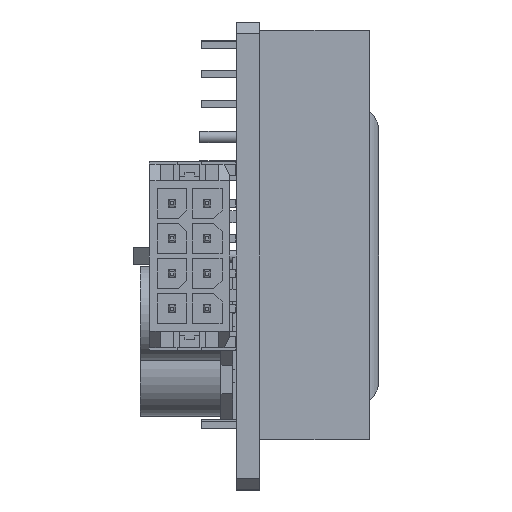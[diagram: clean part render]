
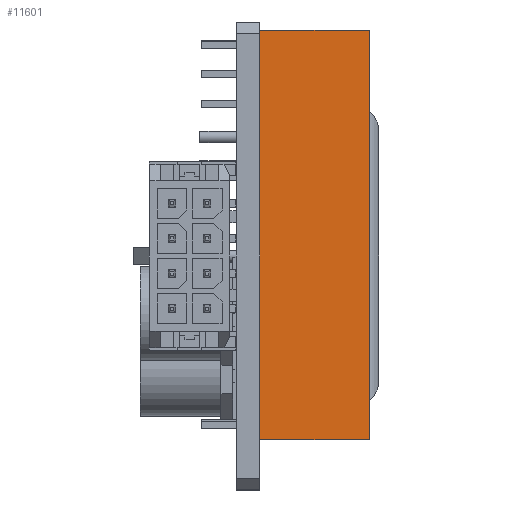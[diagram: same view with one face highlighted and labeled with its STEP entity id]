
A CAD part, left-side view. The second image highlights one B-rep face of the part: STEP entity #11601.
In plain terms, the highlighted planar face has unit normal (-1, 0, 0).
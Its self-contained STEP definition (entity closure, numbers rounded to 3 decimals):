
#281 = EDGE_LOOP ( 'NONE', ( #19306, #19305, #19304, #19303 ) ) ;
#1951 = VECTOR ( 'NONE', #17221, 1000. ) ;
#8158 = EDGE_CURVE ( 'NONE', #11321, #11326, #17209, .T. ) ;
#8252 = EDGE_CURVE ( 'NONE', #10986, #11321, #17492, .T. ) ;
#8258 = EDGE_CURVE ( 'NONE', #9071, #11326, #13820, .T. ) ;
#8259 = EDGE_CURVE ( 'NONE', #9071, #10986, #13823, .T. ) ;
#9071 = VERTEX_POINT ( 'NONE', #14918 ) ;
#10986 = VERTEX_POINT ( 'NONE', #12856 ) ;
#11321 = VERTEX_POINT ( 'NONE', #13191 ) ;
#11326 = VERTEX_POINT ( 'NONE', #13196 ) ;
#11601 = ADVANCED_FACE ( 'NONE', ( #13357 ), #13358, .F. ) ;
#12856 = CARTESIAN_POINT ( 'NONE',  ( -35.8, -9.39, 19.3 ) ) ;
#13191 = CARTESIAN_POINT ( 'NONE',  ( -35.8, 0., 19.3 ) ) ;
#13196 = CARTESIAN_POINT ( 'NONE',  ( -35.8, 0., -15.7 ) ) ;
#13349 = CARTESIAN_POINT ( 'NONE',  ( -35.8, -52.99, 19.3 ) ) ;
#13357 = FACE_OUTER_BOUND ( 'NONE', #281, .T. ) ;
#13358 = PLANE ( 'NONE',  #15391 ) ;
#13360 = DIRECTION ( 'NONE',  ( 1., 0., 0. ) ) ;
#13361 = DIRECTION ( 'NONE',  ( 0., 0., -1. ) ) ;
#13804 = DIRECTION ( 'NONE',  ( 0., 1., 0. ) ) ;
#13820 = LINE ( 'NONE', #13821, #15054 ) ;
#13821 = CARTESIAN_POINT ( 'NONE',  ( -35.8, -52.99, -15.7 ) ) ;
#13822 = DIRECTION ( 'NONE',  ( 0., 1., 0. ) ) ;
#13823 = LINE ( 'NONE', #13824, #15055 ) ;
#13824 = CARTESIAN_POINT ( 'NONE',  ( -35.8, -9.39, 19.3 ) ) ;
#13825 = DIRECTION ( 'NONE',  ( 0., 0., 1. ) ) ;
#14918 = CARTESIAN_POINT ( 'NONE',  ( -35.8, -9.39, -15.7 ) ) ;
#15047 = VECTOR ( 'NONE', #13804, 1000. ) ;
#15054 = VECTOR ( 'NONE', #13822, 1000. ) ;
#15055 = VECTOR ( 'NONE', #13825, 1000. ) ;
#15391 = AXIS2_PLACEMENT_3D ( 'NONE', #13349, #13360, #13361 ) ;
#17209 = LINE ( 'NONE', #17210, #1951 ) ;
#17210 = CARTESIAN_POINT ( 'NONE',  ( -35.8, 0., 19.3 ) ) ;
#17221 = DIRECTION ( 'NONE',  ( 0., 0., -1. ) ) ;
#17492 = LINE ( 'NONE', #17493, #15047 ) ;
#17493 = CARTESIAN_POINT ( 'NONE',  ( -35.8, -52.99, 19.3 ) ) ;
#19303 = ORIENTED_EDGE ( 'NONE', *, *, #8252, .T. ) ;
#19304 = ORIENTED_EDGE ( 'NONE', *, *, #8259, .T. ) ;
#19305 = ORIENTED_EDGE ( 'NONE', *, *, #8258, .F. ) ;
#19306 = ORIENTED_EDGE ( 'NONE', *, *, #8158, .T. ) ;
